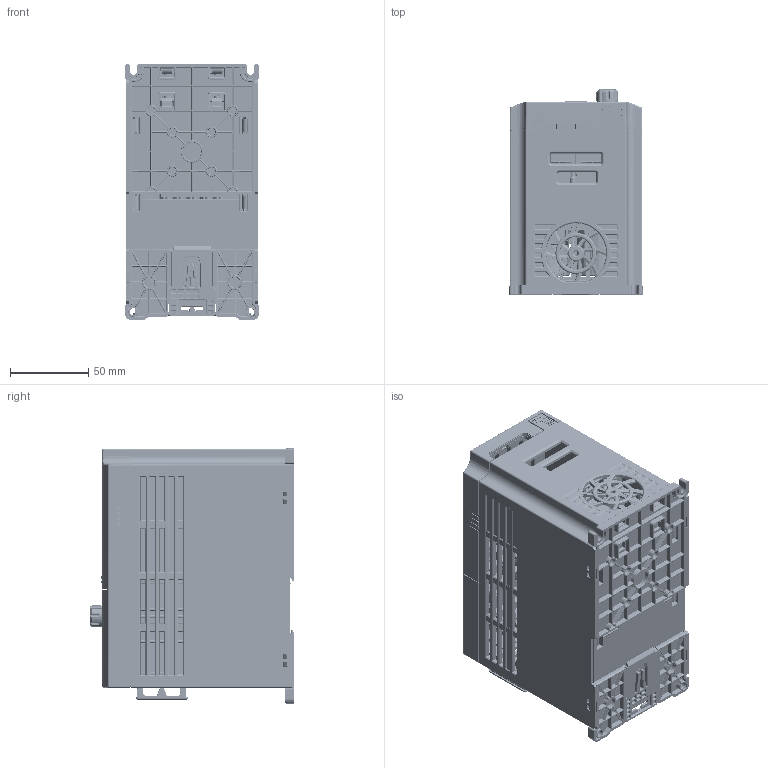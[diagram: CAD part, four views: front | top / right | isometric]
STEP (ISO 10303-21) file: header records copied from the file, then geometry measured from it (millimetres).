
FILE_DESCRIPTION (( 'STEP AP214' ), '1' );
FILE_NAME ('M100_004_008.STEP', '2019-03-12T14:50:46', ( '' ), ( '' ), 'SwSTEP 2.0', 'SolidWorks 2012', '' );
FILE_SCHEMA (( 'AUTOMOTIVE_DESIGN' ));
Products named in the file (18): TOTAL_MICRODRIVE_B-FRAME_ASM_21_ASM; BODY-CASE_ASM_ASM_4_ASM; VENT-COVER_B_FRAME_6; VOLUME_JOG_1_1; MICRODRIVE_KEYOAD-SHEET_V4_1_1; MICRO-DRIVE-KEYPAD-BUTTON_1; IO_COVER_B-FRAME_V0_6; BODY_CASE_B-FRAME_5; TOTAL_BASE_BODY_ASM_1_ASM; M4-L12_1_1; MICRODRIVE_IGBT_1; MICRO_MIDDLE_BASE_B_FRAME_1; MICRODRIVE_SUPPORTOR_1; NO-FAN-TYPE_HEATSINK_V2-2_1; ASM_BASECASE_ASM_1_ASM_1; DIN-RAIL-JOINT_1; MICRO_BASE_CASE_B_FRAME_3; M100_004_008
Assembly tree (23 placements, depth 5):
  M100_004_008
    TOTAL_MICRODRIVE_B-FRAME_ASM_21_ASM
      TOTAL_BASE_BODY_ASM_1_ASM
        ASM_BASECASE_ASM_1_ASM_1
          MICRO_BASE_CASE_B_FRAME_3
          DIN-RAIL-JOINT_1
        NO-FAN-TYPE_HEATSINK_V2-2_1
        MICRODRIVE_SUPPORTOR_1
        MICRO_MIDDLE_BASE_B_FRAME_1
        MICRODRIVE_IGBT_1
        M4-L12_1_1  x2
      BODY-CASE_ASM_ASM_4_ASM
        BODY_CASE_B-FRAME_5
        IO_COVER_B-FRAME_V0_6
        MICRO-DRIVE-KEYPAD-BUTTON_1  x6
        MICRODRIVE_KEYOAD-SHEET_V4_1_1
        VOLUME_JOG_1_1
        VENT-COVER_B_FRAME_6
Bounding box: 85.21 x 131 x 163.21 mm (x, y, z)
Volume: 49925.5 mm3; surface area: 359265.7 mm2
Topology: 13 solids, 24 shells, 21536 faces, 54029 edges, 30946 vertices
Faces by surface type: cylinder 8083, bspline 6572, plane 5591, cone 1282, torus 8
Entity records: 847210 total; most frequent: CARTESIAN_POINT 441925, ORIENTED_EDGE 99483, DIRECTION 62543, EDGE_CURVE 49758, VERTEX_POINT 29495, AXIS2_PLACEMENT_3D 22326, EDGE_LOOP 21047, FACE_OUTER_BOUND 20528
